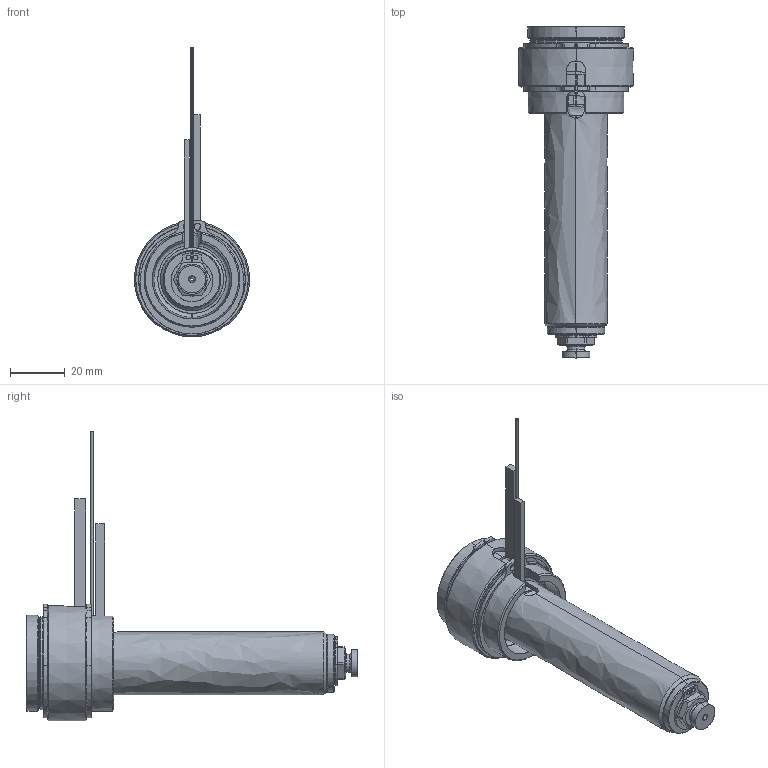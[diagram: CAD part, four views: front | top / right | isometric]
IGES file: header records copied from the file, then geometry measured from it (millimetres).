
Start section: SolidWorks IGES file using analytic representation for surfaces
Global section: file name: C:\Users\luca.EMPAD\Desktop\TEM\UGBE3502-S-A-5 [Ød-1.0 P-0 ØC-7.0].IGS; native system: SolidWorks 2012; preprocessor: SolidWorks 2012; author: luca; date: 120330.140429; units: millimetre
Bounding box: 42 x 121 x 105.6 mm (x, y, z)
Surface area: 28682.8 mm2 (no closed solid volume)
Topology: 0 solids, 0 shells, 187 faces, 3502 edges, 3502 vertices
Faces by surface type: revolution 119, bspline 68
